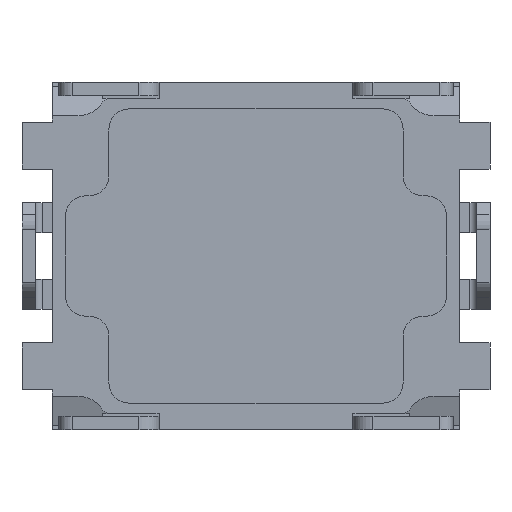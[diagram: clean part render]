
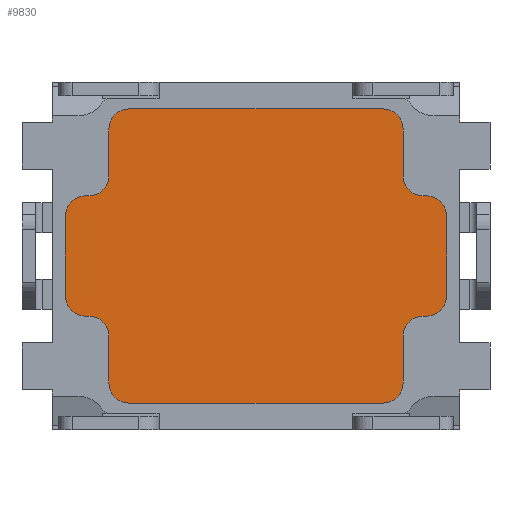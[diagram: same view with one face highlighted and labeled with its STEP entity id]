
A CAD part, front view. The second image highlights one B-rep face of the part: STEP entity #9830.
In plain terms, the highlighted planar face has unit normal (0, -1, 0).
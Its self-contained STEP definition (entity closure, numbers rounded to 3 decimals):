
#3523=CARTESIAN_POINT('',(-0.95,-0.05,-0.95));
#3524=DIRECTION('',(0.,1.,0.));
#3525=DIRECTION('',(0.,0.,-1.));
#3526=AXIS2_PLACEMENT_3D('',#3523,#3524,#3525);
#3528=DIRECTION('',(0.,0.,1.));
#3529=VECTOR('',#3528,0.35);
#3530=CARTESIAN_POINT('',(-1.1,-0.05,-0.95));
#3531=LINE('',#3530,#3529);
#3532=CARTESIAN_POINT('',(-1.25,-0.05,-0.6));
#3533=DIRECTION('',(0.,-1.,0.));
#3534=DIRECTION('',(1.,0.,0.));
#3535=AXIS2_PLACEMENT_3D('',#3532,#3533,#3534);
#3537=DIRECTION('',(-1.,0.,0.));
#3538=VECTOR('',#3537,0.025);
#3539=CARTESIAN_POINT('',(-1.25,-0.05,-0.45));
#3540=LINE('',#3539,#3538);
#3541=CARTESIAN_POINT('',(-1.275,-0.05,-0.3));
#3542=DIRECTION('',(0.,1.,0.));
#3543=DIRECTION('',(0.,0.,-1.));
#3544=AXIS2_PLACEMENT_3D('',#3541,#3542,#3543);
#3546=DIRECTION('',(0.,0.,1.));
#3547=VECTOR('',#3546,0.6);
#3548=CARTESIAN_POINT('',(-1.425,-0.05,-0.3));
#3549=LINE('',#3548,#3547);
#3550=CARTESIAN_POINT('',(-1.275,-0.05,0.3));
#3551=DIRECTION('',(0.,1.,0.));
#3552=DIRECTION('',(-1.,0.,0.));
#3553=AXIS2_PLACEMENT_3D('',#3550,#3551,#3552);
#3555=DIRECTION('',(1.,0.,0.));
#3556=VECTOR('',#3555,0.025);
#3557=CARTESIAN_POINT('',(-1.275,-0.05,0.45));
#3558=LINE('',#3557,#3556);
#3559=CARTESIAN_POINT('',(-1.25,-0.05,0.6));
#3560=DIRECTION('',(0.,-1.,0.));
#3561=DIRECTION('',(0.,0.,-1.));
#3562=AXIS2_PLACEMENT_3D('',#3559,#3560,#3561);
#3564=DIRECTION('',(0.,0.,1.));
#3565=VECTOR('',#3564,0.35);
#3566=CARTESIAN_POINT('',(-1.1,-0.05,0.6));
#3567=LINE('',#3566,#3565);
#3568=CARTESIAN_POINT('',(-0.95,-0.05,0.95));
#3569=DIRECTION('',(0.,1.,0.));
#3570=DIRECTION('',(-1.,0.,0.));
#3571=AXIS2_PLACEMENT_3D('',#3568,#3569,#3570);
#3573=DIRECTION('',(1.,0.,0.));
#3574=VECTOR('',#3573,1.9);
#3575=CARTESIAN_POINT('',(-0.95,-0.05,1.1));
#3576=LINE('',#3575,#3574);
#3577=CARTESIAN_POINT('',(0.95,-0.05,0.95));
#3578=DIRECTION('',(0.,1.,0.));
#3579=DIRECTION('',(0.,0.,1.));
#3580=AXIS2_PLACEMENT_3D('',#3577,#3578,#3579);
#3582=DIRECTION('',(0.,0.,-1.));
#3583=VECTOR('',#3582,0.35);
#3584=CARTESIAN_POINT('',(1.1,-0.05,0.95));
#3585=LINE('',#3584,#3583);
#3586=CARTESIAN_POINT('',(1.25,-0.05,0.6));
#3587=DIRECTION('',(0.,-1.,0.));
#3588=DIRECTION('',(-1.,0.,0.));
#3589=AXIS2_PLACEMENT_3D('',#3586,#3587,#3588);
#3591=CARTESIAN_POINT('',(1.275,-0.05,0.3));
#3592=DIRECTION('',(0.,1.,0.));
#3593=DIRECTION('',(0.,0.,1.));
#3594=AXIS2_PLACEMENT_3D('',#3591,#3592,#3593);
#3596=CARTESIAN_POINT('',(1.275,-0.05,-0.3));
#3597=DIRECTION('',(0.,1.,0.));
#3598=DIRECTION('',(1.,0.,0.));
#3599=AXIS2_PLACEMENT_3D('',#3596,#3597,#3598);
#3601=CARTESIAN_POINT('',(1.25,-0.05,-0.6));
#3602=DIRECTION('',(0.,-1.,0.));
#3603=DIRECTION('',(0.,0.,1.));
#3604=AXIS2_PLACEMENT_3D('',#3601,#3602,#3603);
#3606=CARTESIAN_POINT('',(0.95,-0.05,-0.95));
#3607=DIRECTION('',(0.,1.,0.));
#3608=DIRECTION('',(1.,0.,0.));
#3609=AXIS2_PLACEMENT_3D('',#3606,#3607,#3608);
#3619=DIRECTION('',(1.,0.,0.));
#3620=VECTOR('',#3619,1.9);
#3621=CARTESIAN_POINT('',(-0.95,-0.05,-1.1));
#3622=LINE('',#3621,#3620);
#3639=DIRECTION('',(0.,0.,1.));
#3640=VECTOR('',#3639,0.35);
#3641=CARTESIAN_POINT('',(1.1,-0.05,-0.95));
#3642=LINE('',#3641,#3640);
#3655=DIRECTION('',(1.,0.,0.));
#3656=VECTOR('',#3655,0.025);
#3657=CARTESIAN_POINT('',(1.25,-0.05,-0.45));
#3658=LINE('',#3657,#3656);
#3667=DIRECTION('',(0.,0.,1.));
#3668=VECTOR('',#3667,0.6);
#3669=CARTESIAN_POINT('',(1.425,-0.05,-0.3));
#3670=LINE('',#3669,#3668);
#3683=DIRECTION('',(-1.,0.,0.));
#3684=VECTOR('',#3683,0.025);
#3685=CARTESIAN_POINT('',(1.275,-0.05,0.45));
#3686=LINE('',#3685,#3684);
#4941=CARTESIAN_POINT('',(-1.1,-0.05,-0.6));
#4942=VERTEX_POINT('',#4941);
#4943=CARTESIAN_POINT('',(-1.25,-0.05,-0.45));
#4944=VERTEX_POINT('',#4943);
#4945=CARTESIAN_POINT('',(-1.275,-0.05,-0.45));
#4946=VERTEX_POINT('',#4945);
#4947=CARTESIAN_POINT('',(-1.425,-0.05,-0.3));
#4948=VERTEX_POINT('',#4947);
#4949=CARTESIAN_POINT('',(-1.425,-0.05,0.3));
#4950=VERTEX_POINT('',#4949);
#4951=CARTESIAN_POINT('',(-1.275,-0.05,0.45));
#4952=VERTEX_POINT('',#4951);
#4953=CARTESIAN_POINT('',(-1.25,-0.05,0.45));
#4954=VERTEX_POINT('',#4953);
#4955=CARTESIAN_POINT('',(-1.1,-0.05,0.6));
#4956=VERTEX_POINT('',#4955);
#4957=CARTESIAN_POINT('',(-1.1,-0.05,0.95));
#4958=VERTEX_POINT('',#4957);
#4959=CARTESIAN_POINT('',(-0.95,-0.05,1.1));
#4960=VERTEX_POINT('',#4959);
#4961=CARTESIAN_POINT('',(0.95,-0.05,1.1));
#4962=VERTEX_POINT('',#4961);
#4963=CARTESIAN_POINT('',(1.1,-0.05,0.95));
#4964=VERTEX_POINT('',#4963);
#4965=CARTESIAN_POINT('',(-0.95,-0.05,-1.1));
#4966=CARTESIAN_POINT('',(-1.1,-0.05,-0.95));
#4967=VERTEX_POINT('',#4965);
#4968=VERTEX_POINT('',#4966);
#4969=CARTESIAN_POINT('',(1.1,-0.05,0.6));
#4970=VERTEX_POINT('',#4969);
#4971=CARTESIAN_POINT('',(1.25,-0.05,0.45));
#4972=VERTEX_POINT('',#4971);
#4973=CARTESIAN_POINT('',(1.275,-0.05,0.45));
#4974=CARTESIAN_POINT('',(1.425,-0.05,0.3));
#4975=VERTEX_POINT('',#4973);
#4976=VERTEX_POINT('',#4974);
#4977=CARTESIAN_POINT('',(1.425,-0.05,-0.3));
#4978=CARTESIAN_POINT('',(1.275,-0.05,-0.45));
#4979=VERTEX_POINT('',#4977);
#4980=VERTEX_POINT('',#4978);
#4981=CARTESIAN_POINT('',(1.25,-0.05,-0.45));
#4982=CARTESIAN_POINT('',(1.1,-0.05,-0.6));
#4983=VERTEX_POINT('',#4981);
#4984=VERTEX_POINT('',#4982);
#4985=CARTESIAN_POINT('',(1.1,-0.05,-0.95));
#4986=CARTESIAN_POINT('',(0.95,-0.05,-1.1));
#4987=VERTEX_POINT('',#4985);
#4988=VERTEX_POINT('',#4986);
#9788=CARTESIAN_POINT('',(0.,-0.05,0.));
#9789=DIRECTION('',(0.,1.,0.));
#9790=DIRECTION('',(1.,0.,0.));
#9791=AXIS2_PLACEMENT_3D('',#9788,#9789,#9790);
#9792=PLANE('',#9791);
#9794=ORIENTED_EDGE('',*,*,#9793,.T.);
#9795=ORIENTED_EDGE('',*,*,#9613,.T.);
#9796=ORIENTED_EDGE('',*,*,#9629,.T.);
#9797=ORIENTED_EDGE('',*,*,#9641,.T.);
#9798=ORIENTED_EDGE('',*,*,#9655,.T.);
#9799=ORIENTED_EDGE('',*,*,#9671,.T.);
#9800=ORIENTED_EDGE('',*,*,#9683,.T.);
#9801=ORIENTED_EDGE('',*,*,#9699,.T.);
#9802=ORIENTED_EDGE('',*,*,#9713,.T.);
#9803=ORIENTED_EDGE('',*,*,#9725,.T.);
#9804=ORIENTED_EDGE('',*,*,#9739,.T.);
#9805=ORIENTED_EDGE('',*,*,#9755,.T.);
#9806=ORIENTED_EDGE('',*,*,#9768,.T.);
#9807=ORIENTED_EDGE('',*,*,#9779,.T.);
#9809=ORIENTED_EDGE('',*,*,#9808,.T.);
#9811=ORIENTED_EDGE('',*,*,#9810,.F.);
#9813=ORIENTED_EDGE('',*,*,#9812,.T.);
#9815=ORIENTED_EDGE('',*,*,#9814,.F.);
#9817=ORIENTED_EDGE('',*,*,#9816,.T.);
#9819=ORIENTED_EDGE('',*,*,#9818,.F.);
#9821=ORIENTED_EDGE('',*,*,#9820,.T.);
#9823=ORIENTED_EDGE('',*,*,#9822,.F.);
#9825=ORIENTED_EDGE('',*,*,#9824,.T.);
#9827=ORIENTED_EDGE('',*,*,#9826,.F.);
#9828=EDGE_LOOP('',(#9794,#9795,#9796,#9797,#9798,#9799,#9800,#9801,#9802,#9803,
#9804,#9805,#9806,#9807,#9809,#9811,#9813,#9815,#9817,#9819,#9821,#9823,#9825,
#9827));
#9829=FACE_OUTER_BOUND('',#9828,.F.);
#9830=ADVANCED_FACE('',(#9829),#9792,.F.);
#3527=CIRCLE('',#3526,0.15);
#3536=CIRCLE('',#3535,0.15);
#3545=CIRCLE('',#3544,0.15);
#3554=CIRCLE('',#3553,0.15);
#3563=CIRCLE('',#3562,0.15);
#3572=CIRCLE('',#3571,0.15);
#3581=CIRCLE('',#3580,0.15);
#3590=CIRCLE('',#3589,0.15);
#3595=CIRCLE('',#3594,0.15);
#3600=CIRCLE('',#3599,0.15);
#3605=CIRCLE('',#3604,0.15);
#3610=CIRCLE('',#3609,0.15);
#9613=EDGE_CURVE('',#4968,#4942,#3531,.T.);
#9629=EDGE_CURVE('',#4942,#4944,#3536,.T.);
#9641=EDGE_CURVE('',#4944,#4946,#3540,.T.);
#9655=EDGE_CURVE('',#4946,#4948,#3545,.T.);
#9671=EDGE_CURVE('',#4948,#4950,#3549,.T.);
#9683=EDGE_CURVE('',#4950,#4952,#3554,.T.);
#9699=EDGE_CURVE('',#4952,#4954,#3558,.T.);
#9713=EDGE_CURVE('',#4954,#4956,#3563,.T.);
#9725=EDGE_CURVE('',#4956,#4958,#3567,.T.);
#9739=EDGE_CURVE('',#4958,#4960,#3572,.T.);
#9755=EDGE_CURVE('',#4960,#4962,#3576,.T.);
#9768=EDGE_CURVE('',#4962,#4964,#3581,.T.);
#9779=EDGE_CURVE('',#4964,#4970,#3585,.T.);
#9793=EDGE_CURVE('',#4967,#4968,#3527,.T.);
#9808=EDGE_CURVE('',#4970,#4972,#3590,.T.);
#9810=EDGE_CURVE('',#4975,#4972,#3686,.T.);
#9812=EDGE_CURVE('',#4975,#4976,#3595,.T.);
#9814=EDGE_CURVE('',#4979,#4976,#3670,.T.);
#9816=EDGE_CURVE('',#4979,#4980,#3600,.T.);
#9818=EDGE_CURVE('',#4983,#4980,#3658,.T.);
#9820=EDGE_CURVE('',#4983,#4984,#3605,.T.);
#9822=EDGE_CURVE('',#4987,#4984,#3642,.T.);
#9824=EDGE_CURVE('',#4987,#4988,#3610,.T.);
#9826=EDGE_CURVE('',#4967,#4988,#3622,.T.);
